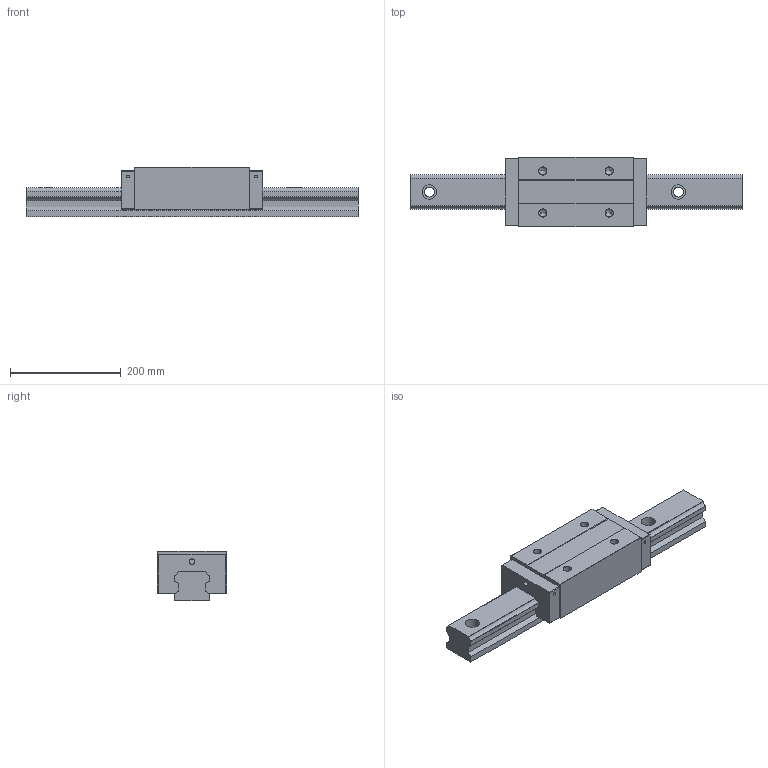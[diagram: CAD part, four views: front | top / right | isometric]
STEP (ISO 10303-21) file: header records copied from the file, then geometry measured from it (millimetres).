
FILE_DESCRIPTION (( 'STEP AP203' ), '1' );
FILE_NAME ('TRH65VE-XN.STEP', '2024-05-20T03:11:07', ( '' ), ( '' ), 'SwSTEP 2.0', 'SolidWorks 2022', '' );
FILE_SCHEMA (( 'CONFIG_CONTROL_DESIGN' ));
Length unit declared in the file: millimetre
Products named in the file (1): TRH65VE-XN
Bounding box: 600 x 126 x 90 mm (x, y, z)
Volume: 3536214.4 mm3; surface area: 306555.5 mm2
Topology: 2 solids, 2 shells, 170 faces, 448 edges, 288 vertices
Faces by surface type: plane 82, cylinder 72, cone 16
Entity records: 5299 total; most frequent: DIRECTION 934, CARTESIAN_POINT 899, ORIENTED_EDGE 880, EDGE_CURVE 440, AXIS2_PLACEMENT_3D 323, LINE 288, VECTOR 288, VERTEX_POINT 288
